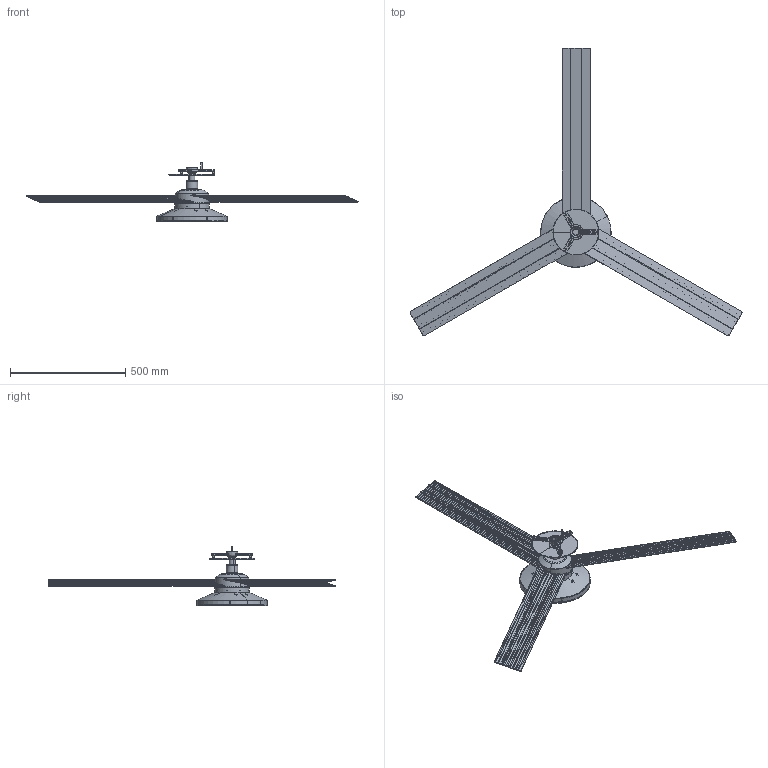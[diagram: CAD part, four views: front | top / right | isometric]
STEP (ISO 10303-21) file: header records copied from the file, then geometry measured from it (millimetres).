
FILE_DESCRIPTION(/* description */ (''),/* implementation_level */ '2;1');
FILE_NAME(/* name */ 'cruiser_tak_XL_recess_3d',/* time_stamp */ '2026-06-18T12:33:30+02:00',/* author */ (''),/* organization */ (''),/* preprocessor_version */ 'ST-DEVELOPER v19.2',/* originating_system */ 'Rhino 8.30',/* authorisation */ '');
FILE_SCHEMA (('CONFIG_CONTROL_DESIGN'));
Length unit declared in the file: millimetre
Products named in the file (1): Document
Bounding box: 1442.38 x 1251.04 x 260.43 mm (x, y, z)
Volume: 319731.4 mm3; surface area: 1322696.5 mm2
Topology: 6 solids, 13 shells, 1092 faces, 2964 edges, 1890 vertices
Faces by surface type: plane 632, cylinder 356, bspline 104
Entity records: 39525 total; most frequent: CARTESIAN_POINT 17219, ORIENTED_EDGE 5871, EDGE_CURVE 2964, DIRECTION 2308, VERTEX_POINT 1889, B_SPLINE_CURVE_WITH_KNOTS 1824, AXIS2_PLACEMENT_3D 1647, EDGE_LOOP 1148
